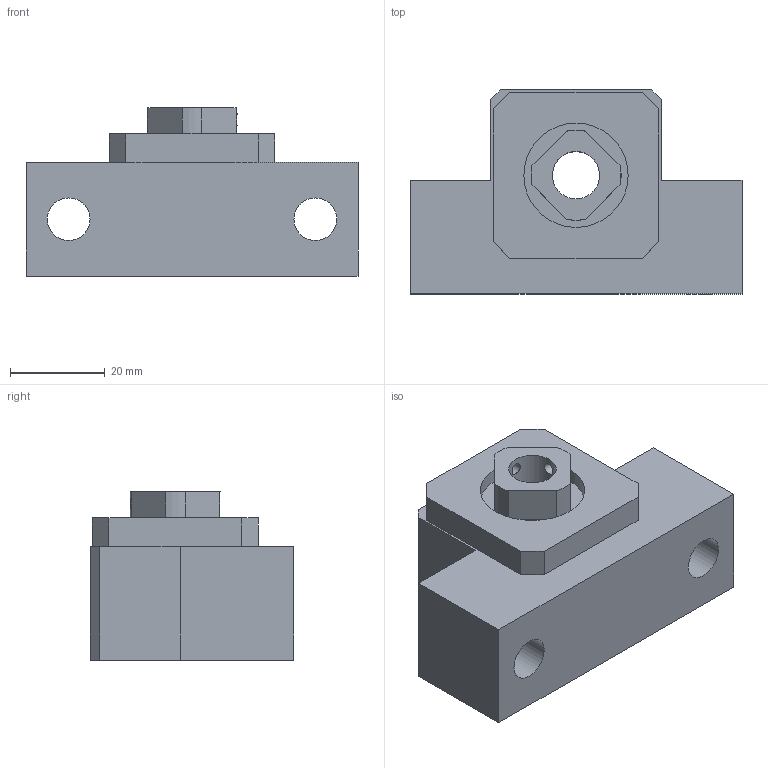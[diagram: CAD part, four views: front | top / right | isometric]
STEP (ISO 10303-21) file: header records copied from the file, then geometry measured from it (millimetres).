
FILE_DESCRIPTION(/* description */ (''),/* implementation_level */ '2;1');
FILE_NAME(/* name */ 'C:\Users\tenki620635\Desktop\官網\圖面\軸承座\3D\setp檔\EK10.stp',/* time_stamp */ '2020-12-18T19:19:21+08:00',/* author */ ('tenki620635'),/* organization */ (''),/* preprocessor_version */ 'ST-DEVELOPER v15.2',/* originating_system */ 'Autodesk Inventor 2014',/* authorisation */ '');
FILE_SCHEMA (('AUTOMOTIVE_DESIGN { 1 0 10303 214 3 1 1 }'));
Length unit declared in the file: millimetre
Products named in the file (1): EK10
Bounding box: 70 x 43 x 35.5 mm (x, y, z)
Volume: 58545.9 mm3; surface area: 13968.9 mm2
Topology: 1 solids, 1 shells, 45 faces, 116 edges, 79 vertices
Faces by surface type: plane 31, cylinder 14
Full cylindrical faces by diameter (mm): 2.459 x2, 9 x2, 10 x1, 13 x1, 15.5 x2, 22 x2
Entity records: 1439 total; most frequent: CARTESIAN_POINT 356, DIRECTION 210, ORIENTED_EDGE 200, EDGE_CURVE 100, VERTEX_POINT 74, EDGE_LOOP 72, LINE 70, VECTOR 70
